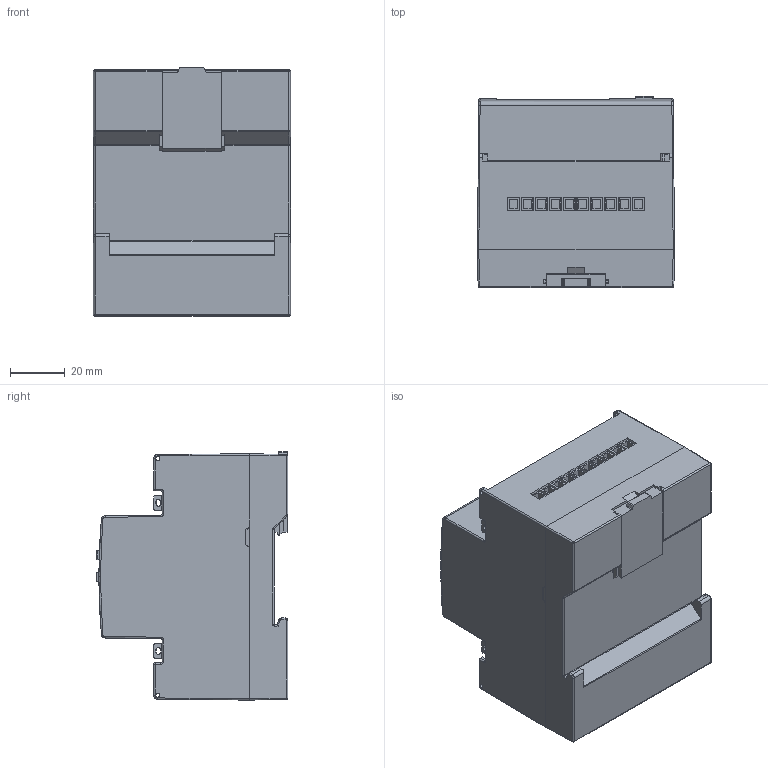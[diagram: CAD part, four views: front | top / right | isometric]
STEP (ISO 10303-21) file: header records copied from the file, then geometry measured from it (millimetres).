
FILE_DESCRIPTION (( 'STEP AP214' ), '1' );
FILE_NAME ('U2389-S0.STEP', '2018-05-24T09:28:42', ( '' ), ( '' ), 'SwSTEP 2.0', 'SolidWorks 2017', '' );
FILE_SCHEMA (( 'AUTOMOTIVE_DESIGN' ));
Length unit declared in the file: millimetre
Products named in the file (1): U2389-S0
Bounding box: 72 x 70 x 90.67 mm (x, y, z)
Volume: 352038.4 mm3; surface area: 37883.6 mm2
Topology: 1 solids, 1 shells, 827 faces, 1992 edges, 1220 vertices
Faces by surface type: plane 480, cylinder 167, bspline 94, cone 65, sphere 14, torus 7
Entity records: 33840 total; most frequent: CARTESIAN_POINT 7399, ORIENTED_EDGE 3952, DIRECTION 3477, EDGE_CURVE 1976, LINE 1321, VECTOR 1321, VERTEX_POINT 1220, AXIS2_PLACEMENT_3D 1078
